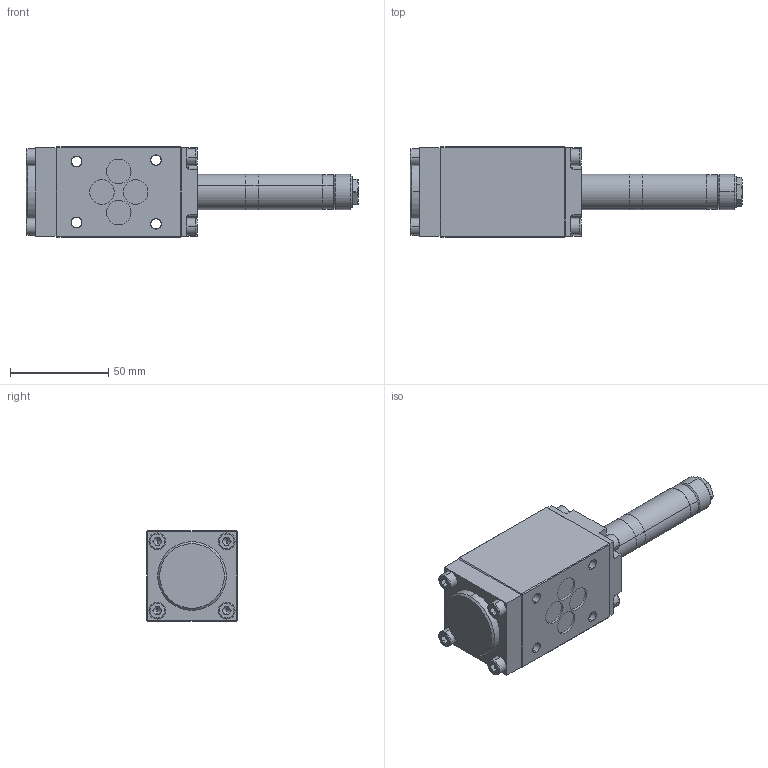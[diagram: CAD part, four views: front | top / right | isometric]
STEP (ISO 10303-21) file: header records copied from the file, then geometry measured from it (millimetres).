
FILE_DESCRIPTION (( 'STEP AP203' ), '1' );
FILE_NAME ('AEXd4-4_2-Bside.step', '2013-07-08T08:23:02', ( 'Wandfluh AG' ), ( 'Wandfluh AG' ), 'SwSTEP 2.0', 'SolidWorks 2012', '' );
FILE_SCHEMA (( 'CONFIG_CONTROL_DESIGN' ));
Products named in the file (1): AEXd4-4_2-Bside
Bounding box: 169.3 x 46 x 46 mm (x, y, z)
Volume: 182204.3 mm3; surface area: 51618.5 mm2
Topology: 22 solids, 22 shells, 1762 faces, 4592 edges, 2968 vertices
Faces by surface type: plane 1166, cylinder 402, cone 97, torus 66, bspline 31
Entity records: 55430 total; most frequent: CARTESIAN_POINT 11125, DIRECTION 9373, ORIENTED_EDGE 9132, EDGE_CURVE 4566, AXIS2_PLACEMENT_3D 3172, LINE 3029, VECTOR 3029, VERTEX_POINT 2968
